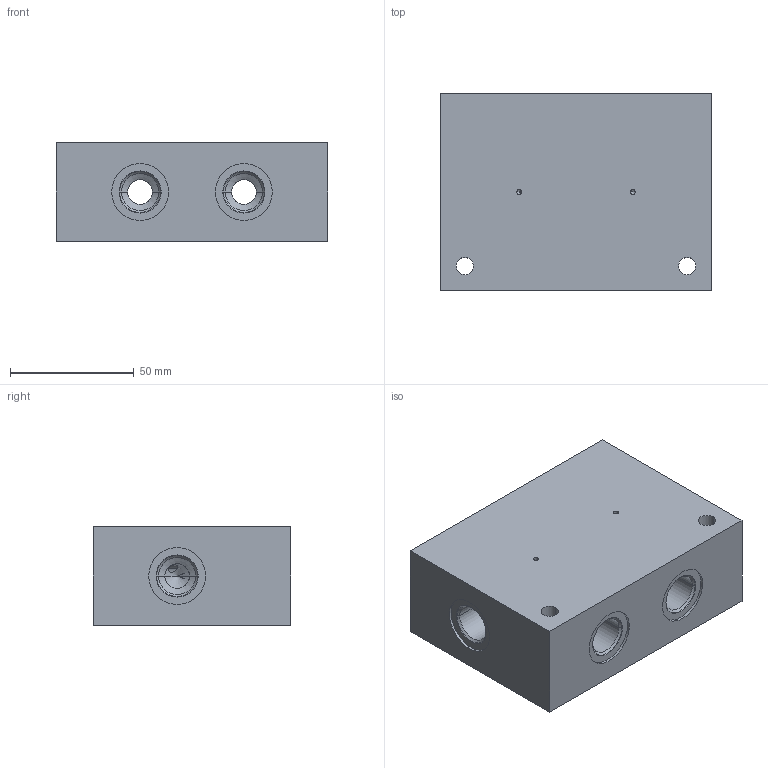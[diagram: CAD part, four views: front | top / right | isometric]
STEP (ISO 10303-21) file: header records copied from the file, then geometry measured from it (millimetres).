
FILE_DESCRIPTION((''),'2;1');
FILE_NAME('1000202097','2023-10-11T',('l.soukupova'),(''),'PRO/ENGINEER BY PARAMETRIC TECHNOLOGY CORPORATION, 2015440','PRO/ENGINEER BY PARAMETRIC TECHNOLOGY CORPORATION, 2015440','');
FILE_SCHEMA(('AUTOMOTIVE_DESIGN { 1 0 10303 214 1 1 1 1 }'));
Length unit declared in the file: millimetre
Products named in the file (1): 1000202097
Bounding box: 110 x 80 x 40 mm (x, y, z)
Volume: 299958.7 mm3; surface area: 49205.4 mm2
Topology: 1 solids, 7 shells, 130 faces, 476 edges, 412 vertices
Faces by surface type: cylinder 68, cone 44, plane 18
Entity records: 7666 total; most frequent: CARTESIAN_POINT 1757, DIRECTION 890, ORIENTED_EDGE 560, PRESENTATION_STYLE_ASSIGNMENT 544, STYLED_ITEM 518, CURVE_STYLE 511, AXIS2_PLACEMENT_3D 297, VECTOR 296
